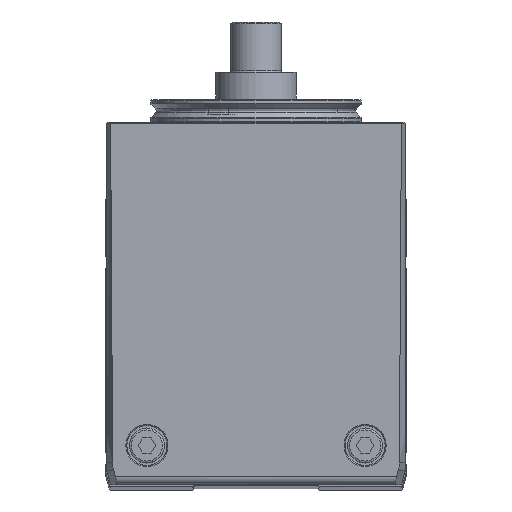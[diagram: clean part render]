
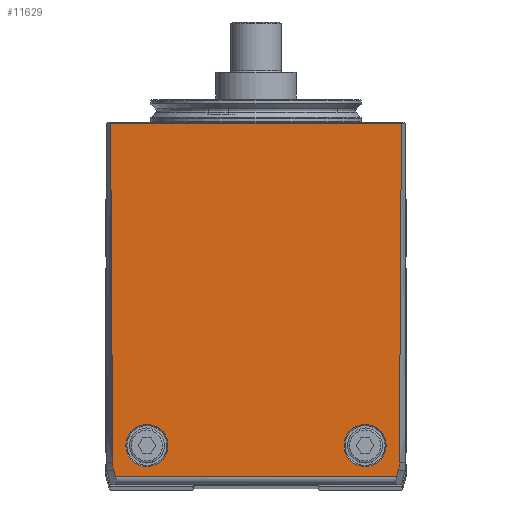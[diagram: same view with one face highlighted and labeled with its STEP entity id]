
A CAD part, top view. The second image highlights one B-rep face of the part: STEP entity #11629.
In plain terms, the highlighted planar face has unit normal (0, 0, 1) as drawn and (0, 1, 0) by its records, which use the part's own axes.
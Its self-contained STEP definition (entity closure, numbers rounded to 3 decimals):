
#145=B_SPLINE_CURVE_WITH_KNOTS('',3,(#24285,#24286,#24287,#24288),
 .UNSPECIFIED.,.F.,.F.,(4,4),(0.,0.002),.UNSPECIFIED.);
#146=B_SPLINE_CURVE_WITH_KNOTS('',3,(#24290,#24291,#24292,#24293,#24294,
#24295,#24296,#24297,#24298,#24299,#24300,#24301,#24302,#24303),
 .UNSPECIFIED.,.F.,.F.,(4,1,1,1,1,1,1,1,1,1,1,4),(0.,0.002,
0.004,0.005,0.006,0.008,
0.013,0.017,0.025,0.034,
0.051,0.068),.UNSPECIFIED.);
#147=B_SPLINE_CURVE_WITH_KNOTS('',3,(#24307,#24308,#24309,#24310,#24311,
#24312,#24313,#24314,#24315,#24316,#24317,#24318,#24319,#24320),
 .UNSPECIFIED.,.F.,.F.,(4,1,1,1,1,1,1,1,1,1,1,4),(0.,0.017,
0.034,0.042,0.051,0.055,
0.059,0.061,0.062,0.064,
0.066,0.068),.UNSPECIFIED.);
#148=B_SPLINE_CURVE_WITH_KNOTS('',3,(#24322,#24323,#24324,#24325),
 .UNSPECIFIED.,.F.,.F.,(4,4),(0.,0.002),.UNSPECIFIED.);
#818=CIRCLE('',#17122,4.2);
#819=CIRCLE('',#17123,4.2);
#3639=ORIENTED_EDGE('',*,*,#5635,.T.);
#3640=ORIENTED_EDGE('',*,*,#5636,.T.);
#3641=ORIENTED_EDGE('',*,*,#5633,.T.);
#3642=ORIENTED_EDGE('',*,*,#5637,.T.);
#3643=ORIENTED_EDGE('',*,*,#5638,.T.);
#3644=ORIENTED_EDGE('',*,*,#5639,.T.);
#3645=ORIENTED_EDGE('',*,*,#5640,.T.);
#3646=ORIENTED_EDGE('',*,*,#5641,.T.);
#3647=ORIENTED_EDGE('',*,*,#5642,.T.);
#3648=ORIENTED_EDGE('',*,*,#5643,.T.);
#5633=EDGE_CURVE('',#6843,#6842,#7832,.T.);
#5635=EDGE_CURVE('',#6844,#6844,#818,.T.);
#5636=EDGE_CURVE('',#6845,#6845,#819,.T.);
#5637=EDGE_CURVE('',#6842,#6846,#7833,.T.);
#5638=EDGE_CURVE('',#6846,#6847,#145,.T.);
#5639=EDGE_CURVE('',#6847,#6848,#146,.T.);
#5640=EDGE_CURVE('',#6848,#6849,#7834,.T.);
#5641=EDGE_CURVE('',#6849,#6850,#147,.T.);
#5642=EDGE_CURVE('',#6850,#6851,#148,.T.);
#5643=EDGE_CURVE('',#6851,#6843,#7835,.T.);
#6842=VERTEX_POINT('',#24274);
#6843=VERTEX_POINT('',#24276);
#6844=VERTEX_POINT('',#24280);
#6845=VERTEX_POINT('',#24282);
#6846=VERTEX_POINT('',#24284);
#6847=VERTEX_POINT('',#24289);
#6848=VERTEX_POINT('',#24304);
#6849=VERTEX_POINT('',#24306);
#6850=VERTEX_POINT('',#24321);
#6851=VERTEX_POINT('',#24326);
#7832=LINE('',#24275,#8805);
#7833=LINE('',#24283,#8806);
#7834=LINE('',#24305,#8807);
#7835=LINE('',#24327,#8808);
#8805=VECTOR('',#20106,1000.);
#8806=VECTOR('',#20115,1000.);
#8807=VECTOR('',#20116,1000.);
#8808=VECTOR('',#20117,1000.);
#9606=EDGE_LOOP('',(#3639));
#9607=EDGE_LOOP('',(#3640));
#9608=EDGE_LOOP('',(#3641,#3642,#3643,#3644,#3645,#3646,#3647,#3648));
#10507=FACE_BOUND('',#9606,.T.);
#10508=FACE_BOUND('',#9607,.T.);
#10509=FACE_BOUND('',#9608,.T.);
#11029=PLANE('',#17121);
#11629=ADVANCED_FACE('',(#10507,#10508,#10509),#11029,.F.);
#17121=AXIS2_PLACEMENT_3D('',#24278,#20109,#20110);
#17122=AXIS2_PLACEMENT_3D('',#24279,#20111,#20112);
#17123=AXIS2_PLACEMENT_3D('',#24281,#20113,#20114);
#20106=DIRECTION('',(0.,0.,-1.));
#20109=DIRECTION('',(0.,-1.,0.));
#20110=DIRECTION('',(0.,0.,-1.));
#20111=DIRECTION('',(0.,-1.,0.));
#20112=DIRECTION('',(0.,0.,-1.));
#20113=DIRECTION('',(0.,-1.,0.));
#20114=DIRECTION('',(0.,0.,-1.));
#20115=DIRECTION('',(-0.966,0.,-0.259));
#20116=DIRECTION('',(0.,0.,1.));
#20117=DIRECTION('',(0.966,0.,-0.259));
#24274=CARTESIAN_POINT('',(70.75,29.75,-28.037));
#24275=CARTESIAN_POINT('',(70.75,29.75,29.75));
#24276=CARTESIAN_POINT('',(70.75,29.75,28.037));
#24278=CARTESIAN_POINT('',(72.25,29.75,-29.));
#24279=CARTESIAN_POINT('',(64.5,29.75,21.75));
#24280=CARTESIAN_POINT('',(64.5,29.75,17.55));
#24281=CARTESIAN_POINT('',(64.5,29.75,-21.75));
#24282=CARTESIAN_POINT('',(64.5,29.75,-25.95));
#24283=CARTESIAN_POINT('',(71.909,29.75,-27.726));
#24284=CARTESIAN_POINT('',(69.5,29.75,-28.37));
#24285=CARTESIAN_POINT('',(69.5,29.75,-28.37));
#24286=CARTESIAN_POINT('',(69.,29.75,-28.503));
#24287=CARTESIAN_POINT('',(68.484,29.75,-28.561));
#24288=CARTESIAN_POINT('',(67.968,29.75,-28.589));
#24289=CARTESIAN_POINT('',(67.968,29.75,-28.589));
#24290=CARTESIAN_POINT('',(67.968,29.75,-28.589));
#24291=CARTESIAN_POINT('',(67.263,29.75,-28.64));
#24292=CARTESIAN_POINT('',(65.854,29.75,-28.743));
#24293=CARTESIAN_POINT('',(64.092,29.75,-28.861));
#24294=CARTESIAN_POINT('',(62.682,29.75,-28.98));
#24295=CARTESIAN_POINT('',(61.271,29.75,-29.011));
#24296=CARTESIAN_POINT('',(58.8,29.75,-28.991));
#24297=CARTESIAN_POINT('',(55.27,29.75,-29.002));
#24298=CARTESIAN_POINT('',(49.621,29.75,-28.998));
#24299=CARTESIAN_POINT('',(42.561,29.75,-29.));
#24300=CARTESIAN_POINT('',(31.265,29.75,-28.999));
#24301=CARTESIAN_POINT('',(17.145,29.75,-29.));
#24302=CARTESIAN_POINT('',(5.848,29.75,-29.));
#24303=CARTESIAN_POINT('',(0.2,29.75,-29.));
#24304=CARTESIAN_POINT('',(0.2,29.758,-28.997));
#24305=CARTESIAN_POINT('',(0.2,29.75,-29.));
#24306=CARTESIAN_POINT('',(0.2,29.758,28.997));
#24307=CARTESIAN_POINT('',(0.2,29.75,29.));
#24308=CARTESIAN_POINT('',(5.848,29.75,29.));
#24309=CARTESIAN_POINT('',(17.143,29.75,29.));
#24310=CARTESIAN_POINT('',(31.263,29.75,28.999));
#24311=CARTESIAN_POINT('',(42.558,29.75,29.));
#24312=CARTESIAN_POINT('',(49.618,29.75,28.998));
#24313=CARTESIAN_POINT('',(55.266,29.75,29.002));
#24314=CARTESIAN_POINT('',(58.796,29.75,28.992));
#24315=CARTESIAN_POINT('',(61.267,29.75,29.011));
#24316=CARTESIAN_POINT('',(62.678,29.75,28.98));
#24317=CARTESIAN_POINT('',(64.089,29.75,28.861));
#24318=CARTESIAN_POINT('',(65.852,29.75,28.743));
#24319=CARTESIAN_POINT('',(67.263,29.75,28.64));
#24320=CARTESIAN_POINT('',(67.968,29.75,28.589));
#24321=CARTESIAN_POINT('',(67.968,29.75,28.589));
#24322=CARTESIAN_POINT('',(67.968,29.75,28.589));
#24323=CARTESIAN_POINT('',(68.484,29.75,28.561));
#24324=CARTESIAN_POINT('',(69.,29.75,28.503));
#24325=CARTESIAN_POINT('',(69.5,29.75,28.37));
#24326=CARTESIAN_POINT('',(69.5,29.75,28.371));
#24327=CARTESIAN_POINT('',(86.399,29.75,23.847));
